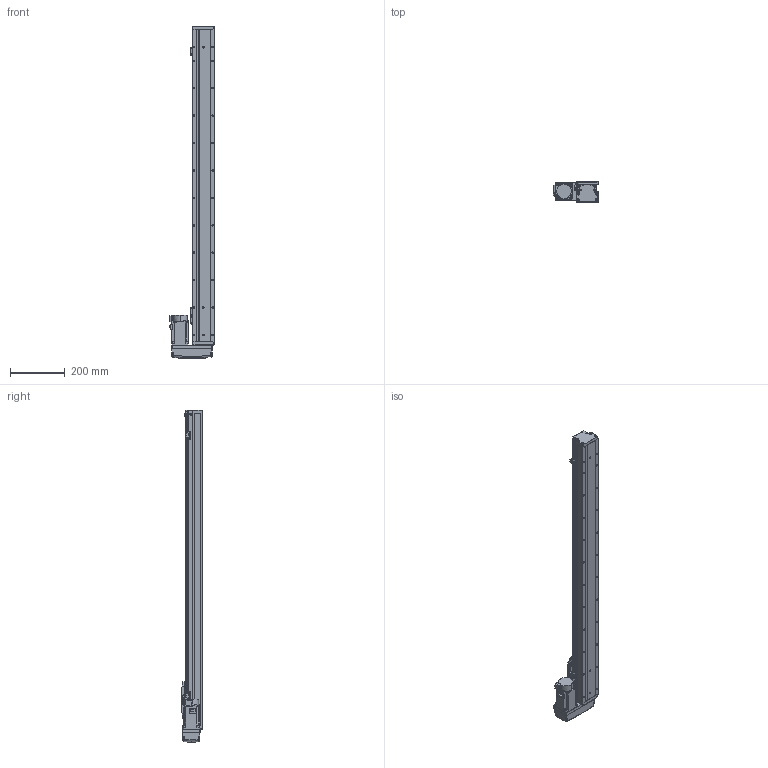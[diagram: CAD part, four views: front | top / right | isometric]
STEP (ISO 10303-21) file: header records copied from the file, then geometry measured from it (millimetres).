
FILE_DESCRIPTION (( 'STEP AP203' ), '1' );
FILE_NAME ('GTH8-950-BL-M20-C4.step', '2022-09-23T01:02:00', ( '微软用户' ), ( '微软中国' ), 'SwSTEP 2.0', 'SolidWorks 2020', '' );
FILE_SCHEMA (( 'CONFIG_CONTROL_DESIGN' ));
Length unit declared in the file: millimetre
Products named in the file (18): hg-kn43j_-s100_; GTH80-003; GBT 70.1-M4×16; CTHA86-015-1_CTHA86-015-2; GTH80-004; GTH80-028; CTHA86-033_M40B; GTH80-006; GTH50-024; GTH8-950-BL-M20-C4; GTH80-013; GTH50-023; GBT 70.3-M3℅6; GBT96.1-2002 3×0.8; GTH80-022; BTH-M3X5X6; GTH80-001_950; GBT 70.1-M3℅6
Assembly tree (57 placements, depth 2):
  GTH8-950-BL-M20-C4
    GTH80-001_950
    GTH80-003
    GTH80-004
    GTH80-006
    GTH80-013
    GBT 70.3-M3℅6  x4
    GTH80-022
    GBT 70.1-M3℅6  x14
    GBT 70.1-M4×16  x8
    GTH80-028  x2
    GTH50-024  x3
    GTH50-023  x3
    GBT96.1-2002 3×0.8  x6
    BTH-M3X5X6  x8
    hg-kn43j_-s100_
    CTHA86-015-1_CTHA86-015-2
    CTHA86-033_M40B
Bounding box: 164.8 x 78 x 1211 mm (x, y, z)
Volume: 5923248.1 mm3; surface area: 581000 mm2
Topology: 59 solids, 59 shells, 2256 faces, 5223 edges, 3203 vertices
Faces by surface type: plane 1187, cylinder 627, cone 260, torus 166, bspline 8, sphere 8
Entity records: 41514 total; most frequent: CARTESIAN_POINT 7289, DIRECTION 6761, ORIENTED_EDGE 6264, EDGE_CURVE 3132, AXIS2_PLACEMENT_3D 2373, VECTOR 2015, LINE 2015, VERTEX_POINT 1978
